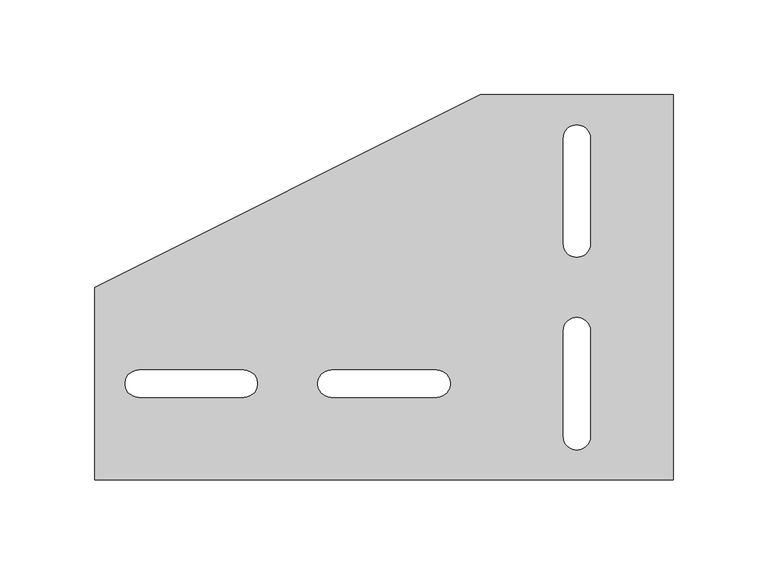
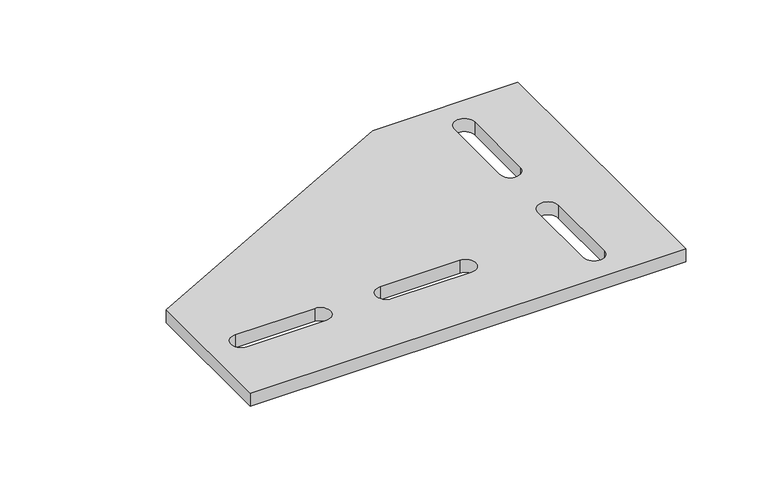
"""IFC4 building model written with IfcOpenShell, lengths in millimetres: proxy geometry, 14NSF-P14 : 14NSF-P14."""

from ifc_helpers import new_model, si_unit, point, frame_2d, origin, origin_with_axes, place, context, project, spatial, polyline, circle_curve, trimmed, segment, composite_curve, outline, extrude, source, transform, mapped, element, save


def generic_models_f6117c61(model_context):
    return source(origin(), model_context, "Body", "SweptSolid", [
        extrude(outline(polyline([(-139.7, 0.0), (-139.7, 101.6), (63.5, 203.2), (165.1, 203.2), (165.1, 0.0), (-139.7, 0.0)]), holes=[composite_curve([segment(trimmed(circle_curve(frame_2d((-61.11875, 50.8)), 7.14375), [point((-61.11875, 43.65625))], [point((-61.11875, 57.94375))], True, "CARTESIAN"), True, "CONTINUOUS"), segment(polyline([(-61.11875, 57.94375), (-116.68125, 57.94375)]), True, "CONTINUOUS"), segment(trimmed(circle_curve(frame_2d((-116.68125, 50.8)), 7.14375), [point((-116.68125, 57.94375))], [point((-116.68125, 43.65625))], True, "CARTESIAN"), True, "CONTINUOUS"), segment(polyline([(-116.68125, 43.65625), (-61.11875, 43.65625)]), True, "CONTINUOUS")], self_intersect=False), composite_curve([segment(trimmed(circle_curve(frame_2d((114.3, 23.01875)), 7.14375), [point((107.15625, 23.01875))], [point((121.44375, 23.01875))], True, "CARTESIAN"), True, "CONTINUOUS"), segment(polyline([(121.44375, 23.01875), (121.44375, 78.58125)]), True, "CONTINUOUS"), segment(trimmed(circle_curve(frame_2d((114.3, 78.58125)), 7.14375), [point((121.44375, 78.58125))], [point((107.15625, 78.58125))], True, "CARTESIAN"), True, "CONTINUOUS"), segment(polyline([(107.15625, 78.58125), (107.15625, 23.01875)]), True, "CONTINUOUS")], self_intersect=False), composite_curve([segment(trimmed(circle_curve(frame_2d((40.48125, 50.8)), 7.14375), [point((40.48125, 43.65625))], [point((40.48125, 57.94375))], True, "CARTESIAN"), True, "CONTINUOUS"), segment(polyline([(40.48125, 57.94375), (-15.08125, 57.94375)]), True, "CONTINUOUS"), segment(trimmed(circle_curve(frame_2d((-15.08125, 50.8)), 7.14375), [point((-15.08125, 57.94375))], [point((-15.08125, 43.65625))], True, "CARTESIAN"), True, "CONTINUOUS"), segment(polyline([(-15.08125, 43.65625), (40.48125, 43.65625)]), True, "CONTINUOUS")], self_intersect=False), composite_curve([segment(trimmed(circle_curve(frame_2d((114.3, 124.61875)), 7.14375), [point((107.15625, 124.61875))], [point((121.44375, 124.61875))], True, "CARTESIAN"), True, "CONTINUOUS"), segment(polyline([(121.44375, 124.61875), (121.44375, 180.18125)]), True, "CONTINUOUS"), segment(trimmed(circle_curve(frame_2d((114.3, 180.18125)), 7.14375), [point((121.44375, 180.18125))], [point((107.15625, 180.18125))], True, "CARTESIAN"), True, "CONTINUOUS"), segment(polyline([(107.15625, 180.18125), (107.15625, 124.61875)]), True, "CONTINUOUS")], self_intersect=False)]), origin_with_axes(), (0.0, 0.0, 1.0), 9.525),
    ])


if __name__ == "__main__":
    model = new_model("IFC4")
    model_context = context("Model", 3, world=origin())
    ifc_project = project(units=[si_unit("LENGTHUNIT", "METRE", prefix="MILLI")], contexts=[model_context])
    site = spatial("IfcSite", under=ifc_project)
    building = spatial("IfcBuilding", under=site)
    placement = place(None, origin())
    generic_models_shape = generic_models_f6117c61(model_context)
    element("IfcBuildingElementProxy", 1, Name="14NSF-P14 : 14NSF-P14", ObjectType="14NSF-P14 : 14NSF-P14", at=placement, inside=building, context=model_context, shape_type="MappedRepresentation", body=[
        mapped(generic_models_shape, transform((0.0, 0.0, 0.0), x_axis=(1.0, 0.0, 0.0), y_axis=(0.0, 1.0, 0.0), z_axis=(0.0, 0.0, 1.0))),
    ])
    save(model, "model.ifc")
